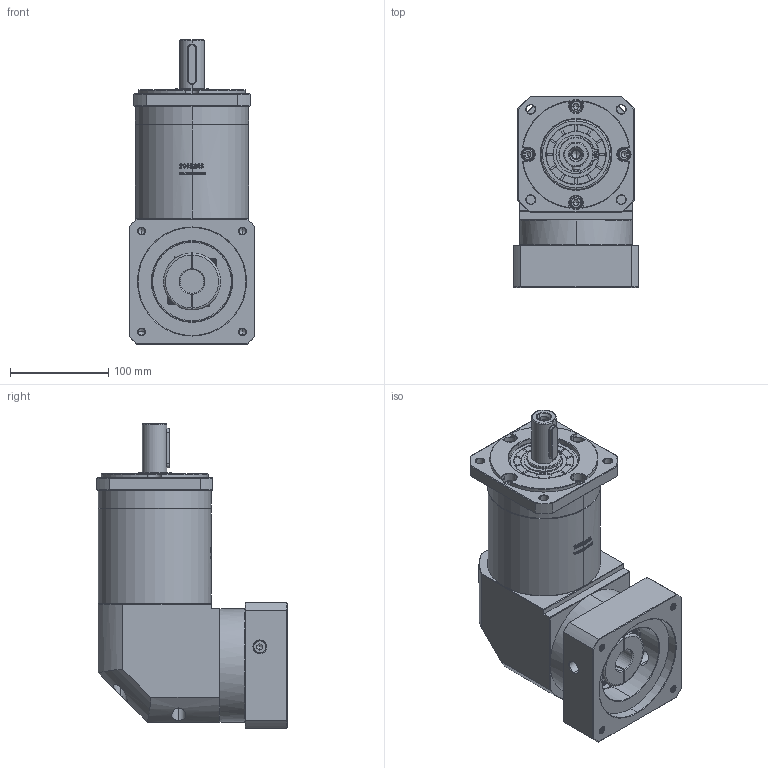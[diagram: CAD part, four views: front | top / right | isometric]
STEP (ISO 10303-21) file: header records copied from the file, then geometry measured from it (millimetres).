
FILE_DESCRIPTION (( 'STEP AP214' ), '1' );
FILE_NAME ('ZFR120A-D25-L3-24-110-145-M8.step', '2023-03-08T08:22:47', ( '' ), ( '' ), 'SwSTEP 2.0', 'SolidWorks 2016', '' );
FILE_SCHEMA (( 'AUTOMOTIVE_DESIGN' ));
Length unit declared in the file: millimetre
Products named in the file (1): ZFR120A-D25-L3-24-110-145-M8
Bounding box: 128 x 193.9 x 310 mm (x, y, z)
Volume: 3567109.2 mm3; surface area: 271945.2 mm2
Topology: 6 solids, 6 shells, 2870 faces, 7678 edges, 4953 vertices
Faces by surface type: plane 1484, bspline 606, cylinder 434, cone 338, torus 8
Entity records: 157839 total; most frequent: CARTESIAN_POINT 60442, ORIENTED_EDGE 15296, DIRECTION 11128, EDGE_CURVE 7648, VERTEX_POINT 4953, VECTOR 4750, LINE 4750, AXIS2_PLACEMENT_3D 3189
